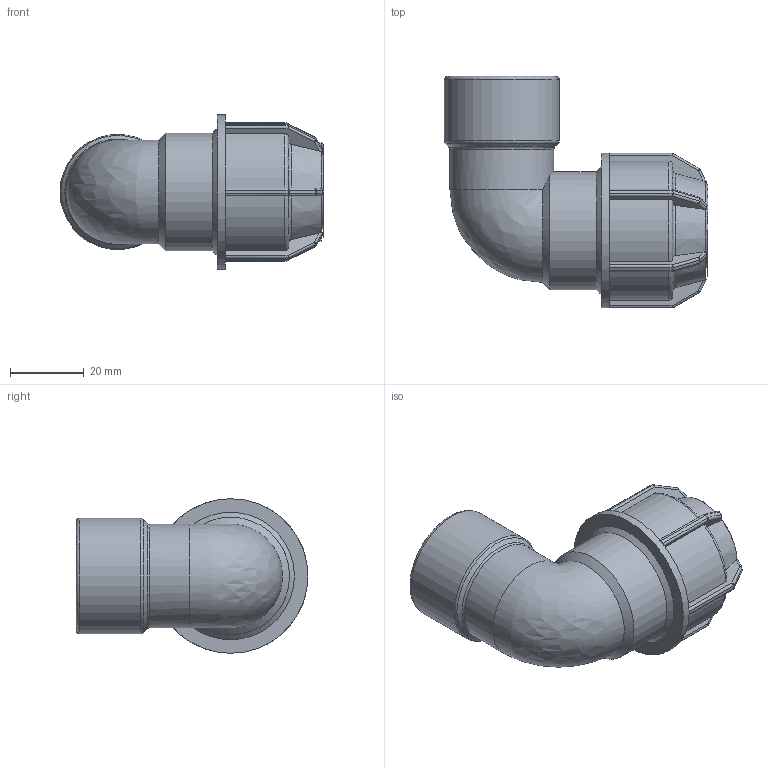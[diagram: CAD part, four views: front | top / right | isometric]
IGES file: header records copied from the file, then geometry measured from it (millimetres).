
Global section: file name: 141500020007.ipt; native system: Autodesk Inventor 2015; preprocessor: unknown; author: KIM; date: 20180409.131144; units: millimetre
Bounding box: 71.68 x 63 x 42 mm (x, y, z)
Volume: 44107.2 mm3; surface area: 17974.3 mm2
Topology: 1 solids, 1 shells, 214 faces, 520 edges, 306 vertices
Faces by surface type: plane 99, cylinder 58, sphere 24, revolution 23, cone 9, bspline 1
Full cylindrical faces by diameter (mm): 28.217 x1, 31.352 x1, 32 x1, 42 x1
